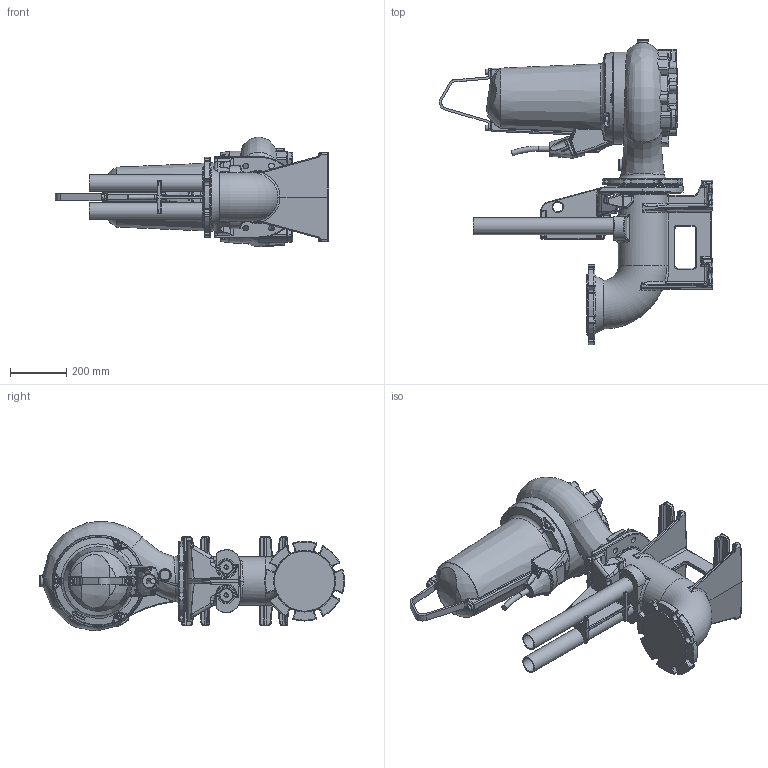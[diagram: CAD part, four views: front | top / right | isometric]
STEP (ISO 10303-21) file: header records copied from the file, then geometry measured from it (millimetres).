
FILE_DESCRIPTION (( 'STEP AP203' ), '1' );
FILE_NAME ('XFP150E-CB1_PE2B_Wet_Dual Rail-.step', '2024-01-16T15:44:58', ( '' ), ( '' ), 'SwSTEP 2.0', 'SolidWorks 2017', '' );
FILE_SCHEMA (( 'CONFIG_CONTROL_DESIGN' ));
Products named in the file (2): XFP150E-CB1_PE2B_Wet_Dual Rail-
Bounding box: 975.93 x 1089.5 x 391.24 mm (x, y, z)
Volume: 67356627.7 mm3; surface area: 2542569.5 mm2
Topology: 15 solids, 19 shells, 2963 faces, 7087 edges, 4081 vertices
Faces by surface type: bspline 1046, cylinder 728, plane 580, torus 333, sphere 156, cone 120
Full cylindrical faces by diameter (mm): 6 x1, 6.8 x2, 8 x4, 9 x2, 10.2 x9, 12 x14, 12.5 x2, 13 x5, 14 x2, 16 x4, 18 x5, 18.7 x1, 20 x8, 35 x1, 52.5 x2, 54 x2, 60.3 x2, 62 x1, 174 x1, 212 x1, 215 x1, 280 x1
Entity records: 154928 total; most frequent: CARTESIAN_POINT 96244, ORIENTED_EDGE 13464, DIRECTION 10390, EDGE_CURVE 6732, AXIS2_PLACEMENT_3D 4283, VERTEX_POINT 4003, EDGE_LOOP 3197, FACE_OUTER_BOUND 3066
